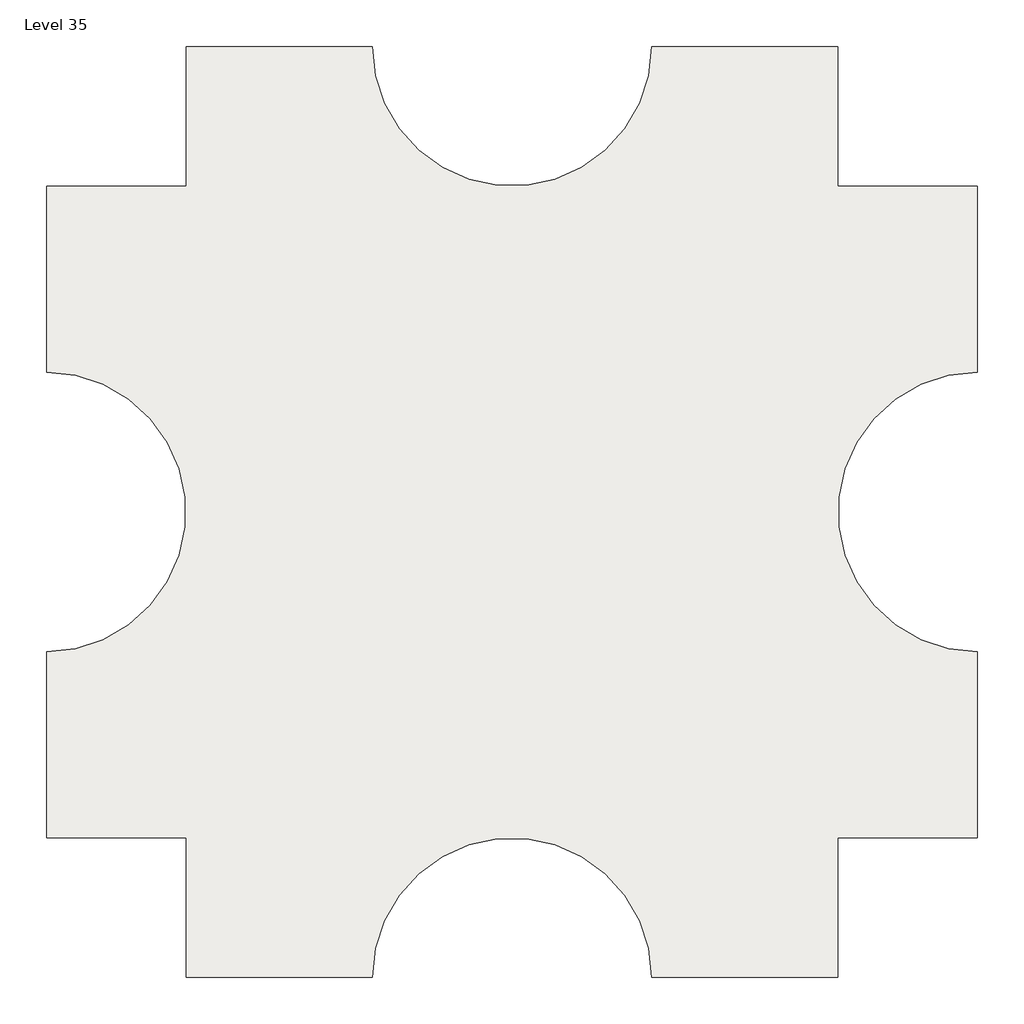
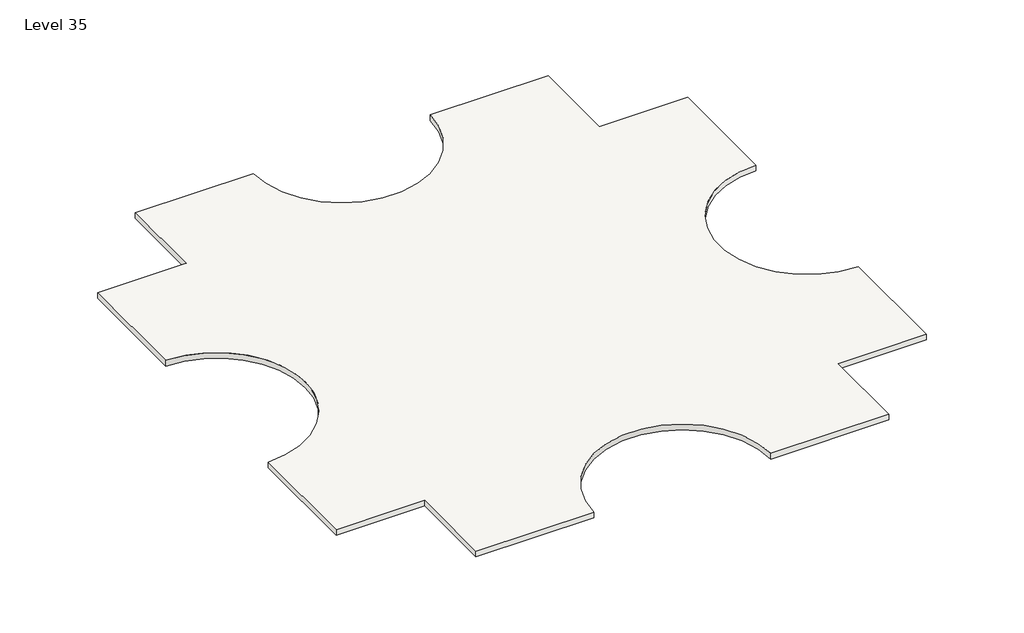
# One storey: 2 slabs.
"""IFC4 building model written with IfcOpenShell, lengths in millimetres."""

import ifcopenshell
import ifcopenshell.guid

model = None  # the IFC model being written
_history = None  # IfcOwnerHistory: only IFC2X3 demands one
_inside = {}  # id of a spatial element -> (the spatial element, [elements in it])
_under = {}  # id of a project, library or spatial element -> (it, [spatial elements below it])
_declared = {}  # id of a project -> (the project, [libraries it declares])
_typed = {}  # id of a type object -> (the type object, [elements of that type])
_made_of = {}  # id of a material, layer set ... -> (it, [elements and type objects made of it])


def new_model(schema):
    """Start an empty IFC model of exactly this schema.

    Asked for "IFC4X3", IfcOpenShell would pick the latest addendum, in which some entities
    have other attributes; the version numbers below select the first issue.
    IFC2X3 requires an IfcOwnerHistory on every rooted entity: one is made here for all.
    """
    global model, _history
    if schema == "IFC4X3":
        model = ifcopenshell.file(schema_version=(4, 3, 0, 0))
    else:
        model = ifcopenshell.file(schema=schema)
    _inside.clear()
    _under.clear()
    _declared.clear()
    _typed.clear()
    _made_of.clear()
    _history = None
    if model.schema == "IFC2X3":
        org = make("IfcOrganization", Name="unknown")
        user = make(
            "IfcPersonAndOrganization",
            ThePerson=make("IfcPerson", FamilyName="unknown"),
            TheOrganization=org,
        )
        app = make(
            "IfcApplication",
            ApplicationDeveloper=org,
            Version="unknown",
            ApplicationFullName="unknown",
            ApplicationIdentifier="unknown",
        )
        _history = make(
            "IfcOwnerHistory",
            OwningUser=user,
            OwningApplication=app,
            ChangeAction="ADDED",
            CreationDate=0,
        )
    return model


def make(cls, **values):
    """One entity of the class cls with the attributes given. An attribute that is None is left unset."""
    return model.create_entity(
        cls, **{name: value for name, value in values.items() if value is not None}
    )


def rooted(cls, **values):
    """An entity with a GlobalId (a new one), such as an element, a storey or a relation."""
    return make(cls, GlobalId=ifcopenshell.guid.new(), OwnerHistory=_history, **values)


def si_unit(unit_type, name, prefix=None):
    """IfcSIUnit, for example si_unit("LENGTHUNIT", "METRE", prefix="MILLI")."""
    return make("IfcSIUnit", UnitType=unit_type, Prefix=prefix, Name=name)


def assignment(units):
    """IfcUnitAssignment: the units of a project."""
    return None if units is None else make("IfcUnitAssignment", Units=units)


def point(xyz):
    """IfcCartesianPoint."""
    return None if xyz is None else make("IfcCartesianPoint", Coordinates=xyz)


def direction(xyz):
    """IfcDirection."""
    return None if xyz is None else make("IfcDirection", DirectionRatios=xyz)


def frame(location, z_axis=None, x_axis=None):
    """IfcAxis2Placement3D, a coordinate frame: its origin and axes. An axis left out is left unset."""
    return make(
        "IfcAxis2Placement3D",
        Location=point(location),
        Axis=direction(z_axis),
        RefDirection=direction(x_axis),
    )


def frame_2d(location, x_axis=None):
    """IfcAxis2Placement2D, a coordinate frame in the plane: its origin and x axis."""
    return make(
        "IfcAxis2Placement2D", Location=point(location), RefDirection=direction(x_axis)
    )


def origin():
    """The frame at (0, 0, 0) with its axes left unset."""
    return frame((0.0, 0.0, 0.0))


def place(relative_to, where):
    """IfcLocalPlacement: puts the frame where relative to a parent placement (None: the world)."""
    return make(
        "IfcLocalPlacement", PlacementRelTo=relative_to, RelativePlacement=where
    )


def context(
    kind, dimensions, precision=None, world=None, true_north=None, identifier=None
):
    """IfcGeometricRepresentationContext, for example the 3D "Model" context."""
    return make(
        "IfcGeometricRepresentationContext",
        ContextIdentifier=identifier,
        ContextType=kind,
        CoordinateSpaceDimension=dimensions,
        Precision=precision,
        WorldCoordinateSystem=world,
        TrueNorth=true_north,
    )


def project(units=None, contexts=None):
    """IfcProject with its units and contexts."""
    return rooted(
        "IfcProject",
        Name="project",
        RepresentationContexts=contexts,
        UnitsInContext=assignment(units),
    )


def spatial(cls, under=None, at=None, **own):
    """A site, building, storey or space (cls), placed at a placement, below another one or the project."""
    s = rooted(cls, ObjectPlacement=at, **own)
    if under is not None:
        _under.setdefault(under.id(), (under, []))[1].append(s)
    return s


def polyline(points):
    """IfcPolyline through the points."""
    return make("IfcPolyline", Points=[point(p) for p in points])


def circle_curve(where, radius):
    """IfcCircle in the frame where."""
    return make("IfcCircle", Position=where, Radius=radius)


def trimmed(basis, trim1, trim2, sense, master):
    """IfcTrimmedCurve: the piece of a basis curve between two trims."""
    return make(
        "IfcTrimmedCurve",
        BasisCurve=basis,
        Trim1=trim1,
        Trim2=trim2,
        SenseAgreement=sense,
        MasterRepresentation=master,
    )


def segment(curve, same_sense, transition):
    """IfcCompositeCurveSegment."""
    return make(
        "IfcCompositeCurveSegment",
        Transition=transition,
        SameSense=same_sense,
        ParentCurve=curve,
    )


def composite_curve(segments, self_intersect=None):
    """IfcCompositeCurve: segments joined end to end."""
    return make("IfcCompositeCurve", Segments=segments, SelfIntersect=self_intersect)


def outline(outer, holes=None, kind="AREA"):
    """IfcArbitraryClosedProfileDef: a profile drawn as a closed curve; with holes, ...WithVoids."""
    if holes is None:
        return make("IfcArbitraryClosedProfileDef", ProfileType=kind, OuterCurve=outer)
    return make(
        "IfcArbitraryProfileDefWithVoids",
        ProfileType=kind,
        OuterCurve=outer,
        InnerCurves=holes,
    )


def extrude(swept, where, along, depth):
    """IfcExtrudedAreaSolid: the profile swept, set in the frame where, extruded along a direction by depth."""
    return make(
        "IfcExtrudedAreaSolid",
        SweptArea=swept,
        Position=where,
        ExtrudedDirection=direction(along),
        Depth=depth,
    )


def shape(context_of_items, identifier, shape_type, items):
    """IfcShapeRepresentation: the items that make up one representation, for example the "Body"."""
    return make(
        "IfcShapeRepresentation",
        ContextOfItems=context_of_items,
        RepresentationIdentifier=identifier,
        RepresentationType=shape_type,
        Items=items,
    )


def made_of(thing, what):
    """Note that an element or type object is made of a material, layer set ...; save() writes the relation."""
    if what is not None:
        _made_of.setdefault(what.id(), (what, []))[1].append(thing)
    return thing


def element(
    cls,
    number,
    at=None,
    inside=None,
    cuts=None,
    type_object=None,
    material=None,
    context=None,
    identifier="Body",
    shape_type=None,
    held_by="IfcProductDefinitionShape",
    body=None,
    shapes=None,
    **own,
):
    """One element of the class cls, such as IfcWall. Its Tag is "e" and its number.

    at: its placement. inside: the storey or other place that contains it. cuts: it is an
    opening in that element (IfcRelVoidsElement). A single representation is given by context,
    identifier, shape_type and body (its items); several are given by shapes. held_by: the class
    of the entity that holds the representations. save() writes the other relations.
    """
    e = rooted(cls, Tag="e%d" % number, ObjectPlacement=at, **own)
    if body is not None:
        shapes = [shape(context, identifier, shape_type, body)]
    if shapes is not None:
        e.Representation = make(held_by, Representations=shapes)
    if inside is not None:
        _inside.setdefault(inside.id(), (inside, []))[1].append(e)
    if cuts is not None:
        rooted(
            "IfcRelVoidsElement", RelatingBuildingElement=cuts, RelatedOpeningElement=e
        )
    if type_object is not None:
        _typed.setdefault(type_object.id(), (type_object, []))[1].append(e)
    return made_of(e, material)


def aggregate(whole, parts):
    """IfcRelAggregates: a whole, such as a stair, and the parts it consists of."""
    return rooted("IfcRelAggregates", RelatingObject=whole, RelatedObjects=parts)


def save(model, path):
    """Write the relations noted so far, then the file.

    IfcRelAggregates (storeys below a building ...), IfcRelContainedInSpatialStructure (elements
    in a storey), IfcRelDefinesByType, IfcRelAssociatesMaterial and IfcRelDeclares: one each for
    every whole, place, type object, material and project.
    """
    for whole, parts in _under.values():
        aggregate(whole, parts)
    for where, things in _inside.values():
        rooted(
            "IfcRelContainedInSpatialStructure",
            RelatedElements=things,
            RelatingStructure=where,
        )
    for kind, things in _typed.values():
        rooted("IfcRelDefinesByType", RelatedObjects=things, RelatingType=kind)
    for what, things in _made_of.values():
        rooted("IfcRelAssociatesMaterial", RelatedObjects=things, RelatingMaterial=what)
    for by, libraries in _declared.values():
        rooted("IfcRelDeclares", RelatingContext=by, RelatedDefinitions=libraries)
    model.write(path)


model = new_model("IFC4")

# Units and contexts
model_context = context("Model", 3, world=origin())
ifc_project = project(units=[si_unit("LENGTHUNIT", "METRE", prefix="MILLI")], contexts=[model_context])

# Site, building, storey
site = spatial("IfcSite", under=ifc_project)
building = spatial("IfcBuilding", under=site)
storey = spatial("IfcBuildingStorey", under=building, Name="Level 35", Elevation=103632.0)

# Slabs
placement = place(None, origin())
element("IfcSlab", 1, ObjectType="Generic - 12\"", at=placement, inside=storey, context=model_context, shape_type="SweptSolid", body=[
    extrude(outline(composite_curve([segment(polyline([(-7150.3629456, 4479.6634547), (-7150.3629456, 9051.6634547), (-1054.3629456, 9051.6634547)]), True, "CONTINUOUS"), segment(trimmed(circle_curve(frame_2d((3517.6370544, 9051.6634547)), 4572.0), [point((-1054.3629456, 9051.6634547))], [point((8089.6370544, 9051.6634547))], True, "CARTESIAN"), True, "CONTINUOUS"), segment(polyline([(8089.6370544, 9051.6634547), (14185.6370544, 9051.6634547), (14185.6370544, 4479.6634547), (18757.6370544, 4479.6634547), (18757.6370544, -1616.3365453)]), True, "CONTINUOUS"), segment(trimmed(circle_curve(frame_2d((18757.6370544, -6188.3365453)), 4572.0), [point((18757.6370544, -1616.3365453))], [point((18757.6370544, -10760.3365453))], True, "CARTESIAN"), True, "CONTINUOUS"), segment(polyline([(18757.6370544, -10760.3365453), (18757.6370544, -16856.3365453), (14185.6370544, -16856.3365453), (14185.6370544, -21428.3365453), (8089.6370544, -21428.3365453)]), True, "CONTINUOUS"), segment(trimmed(circle_curve(frame_2d((3517.6370544, -21428.3365453)), 4572.0), [point((8089.6370544, -21428.3365453))], [point((-1054.3629456, -21428.3365453))], True, "CARTESIAN"), True, "CONTINUOUS"), segment(polyline([(-1054.3629456, -21428.3365453), (-7150.3629456, -21428.3365453), (-7150.3629456, -16856.3365453), (-11722.3629456, -16856.3365453), (-11722.3629456, -10760.3365453)]), True, "CONTINUOUS"), segment(trimmed(circle_curve(frame_2d((-11722.3629456, -6188.3365453)), 4572.0), [point((-11722.3629456, -10760.3365453))], [point((-11722.3629456, -1616.3365453))], True, "CARTESIAN"), True, "CONTINUOUS"), segment(polyline([(-11722.3629456, -1616.3365453), (-11722.3629456, 4479.6634547), (-7150.3629456, 4479.6634547)]), True, "CONTINUOUS")], self_intersect=False)), frame((0.0, 0.0, 103327.2), z_axis=(0.0, 0.0, 1.0), x_axis=(1.0, 0.0, 0.0)), (0.0, 0.0, 1.0), 304.8),
])
element("IfcSlab", 2, ObjectType="Generic - 12\"", at=placement, inside=storey, context=model_context, shape_type="SweptSolid", body=[
    extrude(outline(composite_curve([segment(polyline([(-7150.3629456, 4479.6634547), (-7150.3629456, 9051.6634547), (-1054.3629456, 9051.6634547)]), True, "CONTINUOUS"), segment(trimmed(circle_curve(frame_2d((3517.6370544, 9051.6634547)), 4572.0), [point((-1054.3629456, 9051.6634547))], [point((8089.6370544, 9051.6634547))], True, "CARTESIAN"), True, "CONTINUOUS"), segment(polyline([(8089.6370544, 9051.6634547), (14185.6370544, 9051.6634547), (14185.6370544, 4479.6634547), (18757.6370544, 4479.6634547), (18757.6370544, -1616.3365453)]), True, "CONTINUOUS"), segment(trimmed(circle_curve(frame_2d((18757.6370544, -6188.3365453)), 4572.0), [point((18757.6370544, -1616.3365453))], [point((18757.6370544, -10760.3365453))], True, "CARTESIAN"), True, "CONTINUOUS"), segment(polyline([(18757.6370544, -10760.3365453), (18757.6370544, -16856.3365453), (14185.6370544, -16856.3365453), (14185.6370544, -21428.3365453), (8089.6370544, -21428.3365453)]), True, "CONTINUOUS"), segment(trimmed(circle_curve(frame_2d((3517.6370544, -21428.3365453)), 4572.0), [point((8089.6370544, -21428.3365453))], [point((-1054.3629456, -21428.3365453))], True, "CARTESIAN"), True, "CONTINUOUS"), segment(polyline([(-1054.3629456, -21428.3365453), (-7150.3629456, -21428.3365453), (-7150.3629456, -16856.3365453), (-11722.3629456, -16856.3365453), (-11722.3629456, -10760.3365453)]), True, "CONTINUOUS"), segment(trimmed(circle_curve(frame_2d((-11722.3629456, -6188.3365453)), 4572.0), [point((-11722.3629456, -10760.3365453))], [point((-11722.3629456, -1616.3365453))], True, "CARTESIAN"), True, "CONTINUOUS"), segment(polyline([(-11722.3629456, -1616.3365453), (-11722.3629456, 4479.6634547), (-7150.3629456, 4479.6634547)]), True, "CONTINUOUS")], self_intersect=False)), frame((0.0, 0.0, 103327.2), z_axis=(0.0, 0.0, 1.0), x_axis=(1.0, 0.0, 0.0)), (0.0, 0.0, 1.0), 304.8),
])

save(model, "model.ifc")
